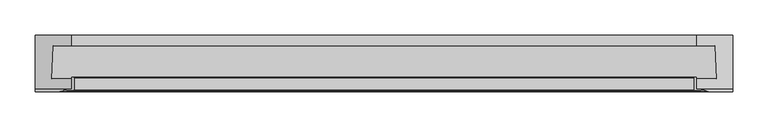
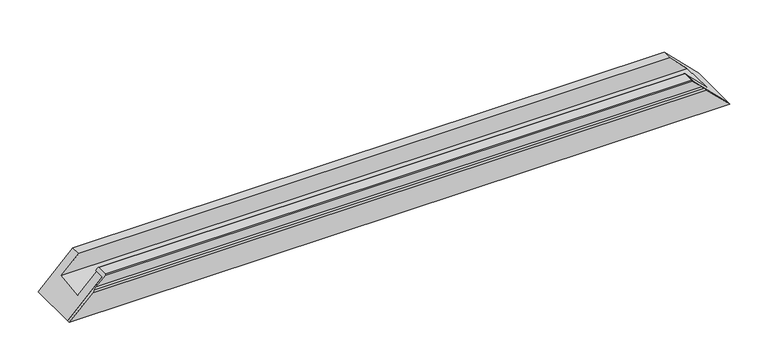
"""IFC4 building model written with IfcOpenShell, lengths in millimetres: proxy geometry, Weiku - Montante - Caixilho duplo 02.2.01.002 : Weiku - Montante - Caixilho duplo 02.2.01.002."""

from ifc_helpers import new_model, si_unit, frame, origin, place, context, project, spatial, polyline, ellipse_curve, faceted_brep, source, transform, mapped, element, save
from ifc_brep_helpers import plane_surface, cylinder_surface, revolved_surface, advanced_brep


def generic_models_e7c11de6(model_context):
    return source(origin(), model_context, "Body", "SolidModel", [
        advanced_brep(
        [(-445.5, -60.0, 52.0), (-445.5, -77.0, 52.0), (-497.5, -77.0, 0.0), (-497.5, -81.0, 0.0), (-462.5, -81.0, 35.0), (-459.5, -80.0, 38.0), (-456.5, -79.0, 41.0), (-442.5, -79.0, 55.0), (-441.5, -78.0, 56.0), (-441.5, -61.0, 56.0), (-442.5, -60.0, 55.0), (442.5, -60.0, 55.0), (445.5, -60.0, 52.0), (441.5, -61.0, 56.0), (441.5, -78.0, 56.0), (442.5, -79.0, 55.0), (456.5, -79.0, 41.0), (459.5, -80.0, 38.0), (462.5, -81.0, 35.0), (497.5, -81.0, 0.0), (497.5, -77.0, 0.0), (445.5, -77.0, 52.0)],
        [
            (0, 1),
            (1, 2),
            (2, 3),
            (3, 4),
            (4, 5, ellipse_curve(frame((-462.5, -76.0, 35.0), z_axis=(-0.707106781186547, 0.0, 0.7071067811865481), x_axis=(-0.7071067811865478, 0.0, -0.707106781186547)), 7.0710678, 5.0)),
            (5, 6, ellipse_curve(frame((-456.5, -84.0, 41.0), z_axis=(0.707106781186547, 0.0, -0.7071067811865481), x_axis=(0.7071067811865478, 0.0, 0.707106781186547)), 7.0710678, 5.0)),
            (6, 7),
            (7, 8, ellipse_curve(frame((-442.5, -78.0, 55.0), z_axis=(-0.707106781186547, 0.0, 0.7071067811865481), x_axis=(-0.7071067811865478, 0.0, -0.707106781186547)), 1.4142136, 1.0)),
            (8, 9),
            (9, 10, ellipse_curve(frame((-442.5, -61.0, 55.0), z_axis=(-0.707106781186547, 0.0, 0.7071067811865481), x_axis=(-0.7071067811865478, 0.0, -0.707106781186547)), 1.4142136, 1.0)),
            (10, 0),
            (10, 11),
            (11, 12),
            (12, 0),
            (9, 13),
            (13, 11, ellipse_curve(frame((442.5, -61.0, 55.0), z_axis=(-0.7071067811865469, 0.0, -0.7071067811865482), x_axis=(-0.707106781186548, 0.0, 0.7071067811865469)), 1.4142136, 1.0)),
            (8, 14),
            (14, 13),
            (7, 15),
            (15, 14, ellipse_curve(frame((442.5, -78.0, 55.0), z_axis=(-0.7071067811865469, 0.0, -0.7071067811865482), x_axis=(-0.707106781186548, 0.0, 0.7071067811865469)), 1.4142136, 1.0)),
            (6, 16),
            (16, 15),
            (5, 17),
            (17, 16, ellipse_curve(frame((456.5, -84.0, 41.0), z_axis=(0.7071067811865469, 0.0, 0.7071067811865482), x_axis=(0.707106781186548, 0.0, -0.7071067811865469)), 7.0710678, 5.0)),
            (4, 18),
            (18, 17, ellipse_curve(frame((462.5, -76.0, 35.0), z_axis=(-0.7071067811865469, 0.0, -0.7071067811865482), x_axis=(-0.707106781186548, 0.0, 0.7071067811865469)), 7.0710678, 5.0)),
            (19, 18),
            (3, 19),
            (2, 20),
            (20, 19),
            (1, 21),
            (21, 20),
            (12, 21),
        ],
        [
            plane_surface(frame((-497.5, 0.0, 0.0), z_axis=(-0.707106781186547, 0.0, 0.7071067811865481), x_axis=(0.0, -1.0, 0.0))),
            plane_surface(frame((-497.5, -60.0, 52.0), z_axis=(0.0, 1.0, 0.0), x_axis=(1.0, 0.0, 0.0))),
            cylinder_surface(frame((-497.5, -61.0, 55.0), z_axis=(-1.0, 0.0, 0.0), x_axis=(0.0, -1.0, 0.0)), 1.0),
            plane_surface(frame((-497.5, -61.0, 56.0), z_axis=(0.0, 0.0, 1.0), x_axis=(1.0, 0.0, 0.0))),
            cylinder_surface(frame((-497.5, -78.0, 55.0), z_axis=(-1.0, 0.0, 0.0), x_axis=(0.0, -1.0, 0.0)), 1.0),
            plane_surface(frame((-497.5, -79.0, 55.0), z_axis=(0.0, -1.0, 0.0), x_axis=(1.0, 0.0, 0.0))),
            revolved_surface(polyline([(461.4999999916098, -89.0, 41.0), (-461.49999999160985, -89.0, 41.0)]), (-497.5, -84.0, 41.0), (1.0, 0.0, 0.0)),
            cylinder_surface(frame((-497.5, -76.0, 35.0), z_axis=(-1.0, 0.0, 0.0), x_axis=(0.0, -1.0, 0.0)), 5.0),
            plane_surface(frame((-497.5, -81.0, 35.0), z_axis=(0.0, -1.0, 0.0), x_axis=(1.0, 0.0, 0.0))),
            plane_surface(frame((-497.5, -81.0, 0.0), z_axis=(0.0, 0.0, -1.0), x_axis=(1.0, 0.0, 0.0))),
            plane_surface(frame((-497.5, -77.0, 0.0), z_axis=(0.0, 1.0, 0.0), x_axis=(1.0, 0.0, 0.0))),
            plane_surface(frame((-497.5, -77.0, 52.0), z_axis=(0.0, 0.0, -1.0), x_axis=(1.0, 0.0, 0.0))),
            plane_surface(frame((427.5, 0.0, 70.0), z_axis=(0.7071067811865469, 0.0, 0.7071067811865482), x_axis=(0.0, -1.0, 0.0))),
        ],
        [
            (0, [[1, 2, 3, 4, 5, 6, 7, 8, 9, 10, 11]]),
            (1, [[12, 13, 14, -11]]),
            (2, [[15, 16, -12, -10]]),
            (3, [[17, 18, -15, -9]]),
            (4, [[19, 20, -17, -8]]),
            (5, [[21, 22, -19, -7]]),
            (6, [[23, 24, -21, -6]]),
            (7, [[25, 26, -23, -5]]),
            (8, [[27, -25, -4, 28]]),
            (9, [[-3, 29, 30, -28]]),
            (10, [[-2, 31, 32, -29]]),
            (11, [[-14, 33, -31, -1]]),
            (12, [[-16, -18, -20, -22, -24, -26, -27, -30, -32, -33, -13]]),
        ],
    ),
        faceted_brep([(-471.5, -15.0, 26.0), (471.5, -15.0, 26.0), (445.5, -15.0, 52.0), (-445.5, -15.0, 52.0), (-473.7229744, -62.0, 23.7770256), (473.7229744, -62.0, 23.7770256), (-445.5, -62.0, 52.0), (445.5, -62.0, 52.0), (-445.5, -77.0, 52.0), (445.5, -77.0, 52.0), (497.5, -77.0, 0.0), (-497.5, -77.0, 0.0), (-497.5, 0.0, 0.0), (497.5, 0.0, 0.0), (-445.5, 0.0, 52.0), (445.5, 0.0, 52.0)], [[[0, 1, 2, 3]], [[4, 5, 1, 0]], [[6, 7, 5, 4]], [[8, 9, 7, 6]], [[10, 9, 8, 11]], [[11, 12, 13, 10]], [[12, 14, 15, 13]], [[3, 2, 15, 14]], [[3, 14, 12, 11, 8, 6, 4, 0]], [[1, 5, 7, 9, 10, 13, 15, 2]]]),
    ])


if __name__ == "__main__":
    model = new_model("IFC4")
    model_context = context("Model", 3, world=origin())
    ifc_project = project(units=[si_unit("LENGTHUNIT", "METRE", prefix="MILLI")], contexts=[model_context])
    site = spatial("IfcSite", under=ifc_project)
    building = spatial("IfcBuilding", under=site)
    placement = place(None, origin())
    generic_models_shape = generic_models_e7c11de6(model_context)
    element("IfcBuildingElementProxy", 1, Name="Weiku - Montante - Caixilho duplo 02.2.01.002 : Weiku - Montante - Caixilho duplo 02.2.01.002", ObjectType="Weiku - Montante - Caixilho duplo 02.2.01.002 : Weiku - Montante - Caixilho duplo 02.2.01.002", at=placement, inside=building, context=model_context, shape_type="MappedRepresentation", body=[
        mapped(generic_models_shape, transform((0.0, 0.0, 0.0), x_axis=(1.0, 0.0, 0.0), y_axis=(0.0, 1.0, 0.0), z_axis=(0.0, 0.0, 1.0))),
    ])
    save(model, "model.ifc")
